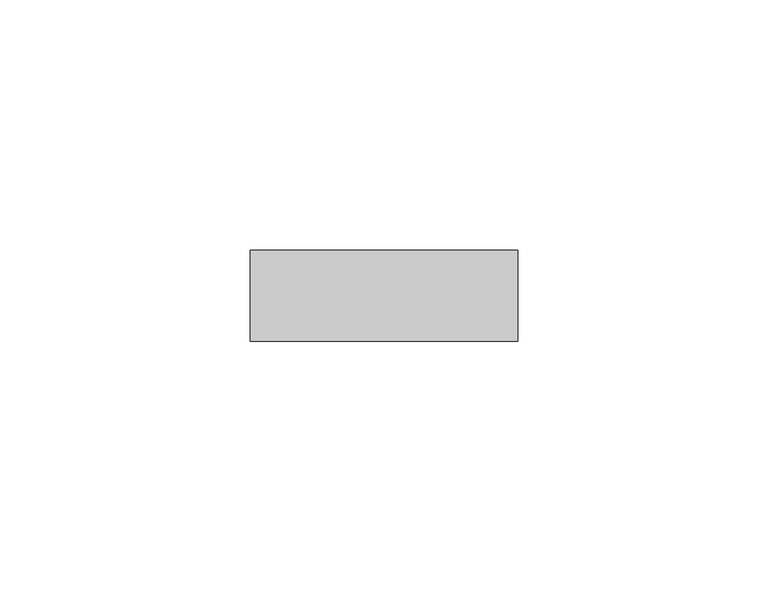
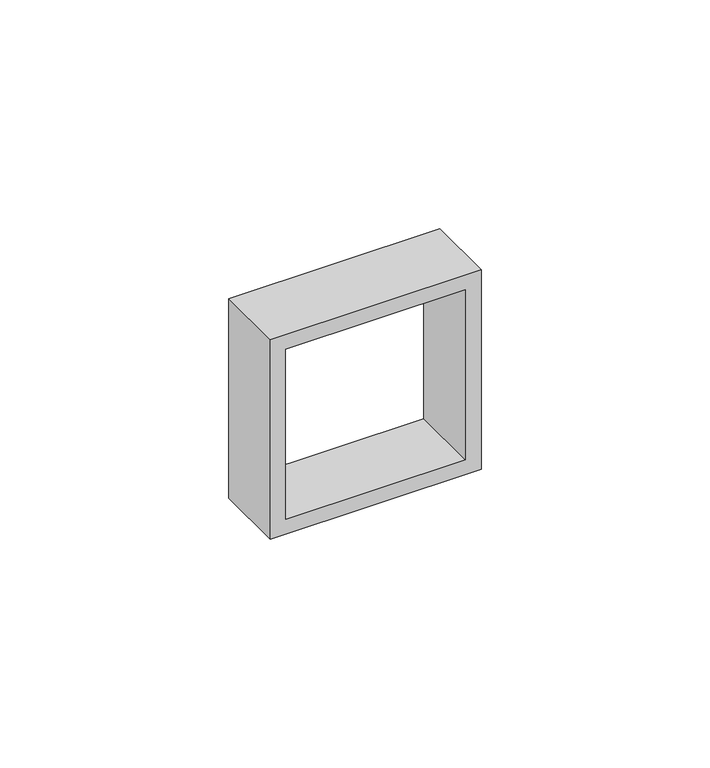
"""IFC4 building model written with IfcOpenShell, lengths in millimetres: proxy geometry, КНС_КаркасДляМонтажаВСистемыОрганизацииРабочихМест_ILF_DKC : 2 модуля."""

from ifc_helpers import new_model, si_unit, frame, origin, place, context, project, spatial, polyline, outline, extrude, source, transform, mapped, element, save


def electrical_fixtures_89ff15f4(model_context):
    return source(origin(), model_context, "Body", "SweptSolid", [
        extrude(outline(polyline([(26.65, 26.65), (26.65, -26.65), (-26.65, -26.65), (-26.65, 26.65), (26.65, 26.65)]), holes=[polyline([(22.6731857, 22.65), (-22.6731857, 22.65), (-22.6731857, -22.65), (22.6731857, -22.65), (22.6731857, 22.65)])]), frame((0.0, 0.0, 0.0), z_axis=(0.0, 1.0, 0.0), x_axis=(0.0, 0.0, 1.0)), (0.0, 0.0, 1.0), 18.1),
    ])


if __name__ == "__main__":
    model = new_model("IFC4")
    model_context = context("Model", 3, world=origin())
    ifc_project = project(units=[si_unit("LENGTHUNIT", "METRE", prefix="MILLI")], contexts=[model_context])
    site = spatial("IfcSite", under=ifc_project)
    building = spatial("IfcBuilding", under=site)
    placement = place(None, origin())
    electrical_fixtures_shape = electrical_fixtures_89ff15f4(model_context)
    element("IfcBuildingElementProxy", 1, Name="КНС_КаркасДляМонтажаВСистемыОрганизацииРабочихМест_ILF_DKC : 2 модуля", ObjectType="КНС_КаркасДляМонтажаВСистемыОрганизацииРабочихМест_ILF_DKC : 2 модуля", at=placement, inside=building, context=model_context, shape_type="MappedRepresentation", body=[
        mapped(electrical_fixtures_shape, transform((0.0, 0.0, 0.0), x_axis=(1.0, 0.0, 0.0), y_axis=(0.0, 1.0, 0.0), z_axis=(0.0, 0.0, 1.0))),
    ])
    save(model, "model.ifc")
